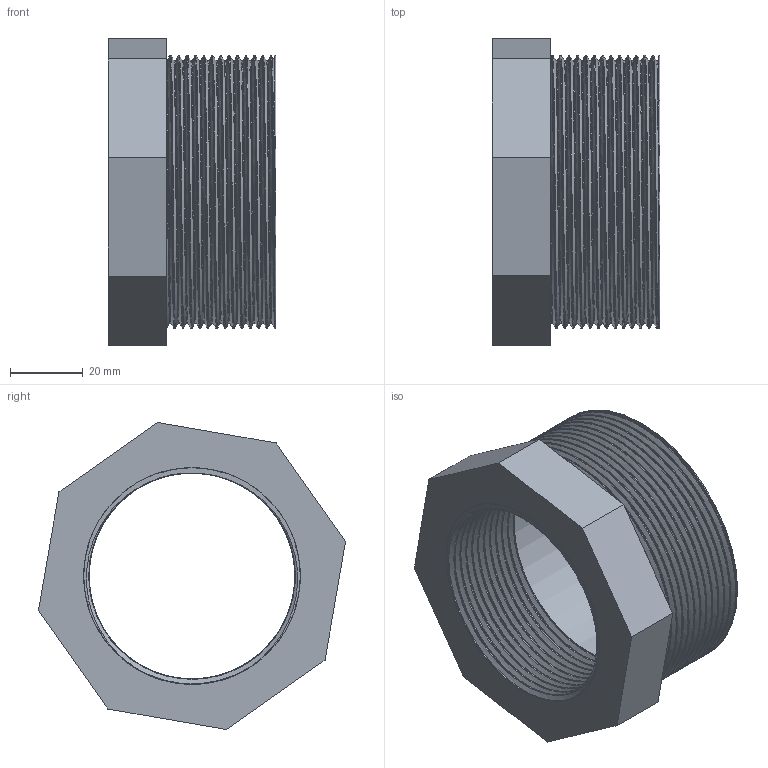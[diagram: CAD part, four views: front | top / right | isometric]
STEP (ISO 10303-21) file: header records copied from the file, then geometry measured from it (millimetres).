
FILE_DESCRIPTION(/* description */ (''),/* implementation_level */ '2;1');
FILE_NAME(/* name */ 'C:\Users\Gabriele\Desktop\disegni 3D\RB91\RB91075G.ipt.stp',/* time_stamp */ '2017-01-24T18:32:08+01:00',/* author */ ('Eugenio'),/* organization */ (''),/* preprocessor_version */ 'ST-DEVELOPER v16.5',/* originating_system */ 'Autodesk Inventor 2017',/* authorisation */ '');
FILE_SCHEMA (('AUTOMOTIVE_DESIGN { 1 0 10303 214 3 1 1 }'));
Length unit declared in the file: millimetre
Products named in the file (1): RB91075G
Bounding box: 46.2 x 84.48 x 84.48 mm (x, y, z)
Volume: 84393.6 mm3; surface area: 57452.6 mm2
Topology: 3 solids, 3 shells, 37 faces, 84 edges, 56 vertices
Faces by surface type: plane 17, bspline 12, cylinder 7, torus 1
Full cylindrical faces by diameter (mm): 59.61 x2, 61.61 x1, 72.166 x2
Entity records: 12046 total; most frequent: CARTESIAN_POINT 11292, ORIENTED_EDGE 156, DIRECTION 108, EDGE_CURVE 78, VERTEX_POINT 56, EDGE_LOOP 52, AXIS2_PLACEMENT_3D 42, B_SPLINE_CURVE_WITH_KNOTS 38
